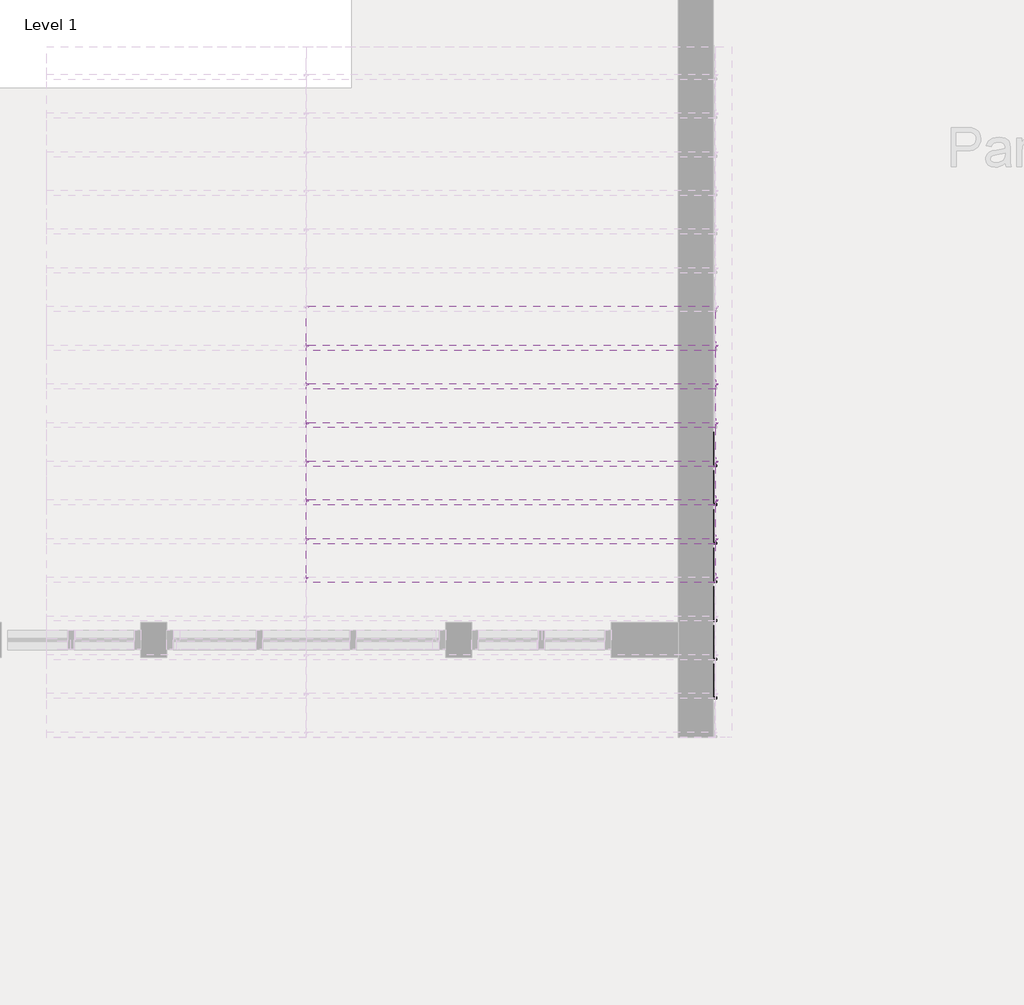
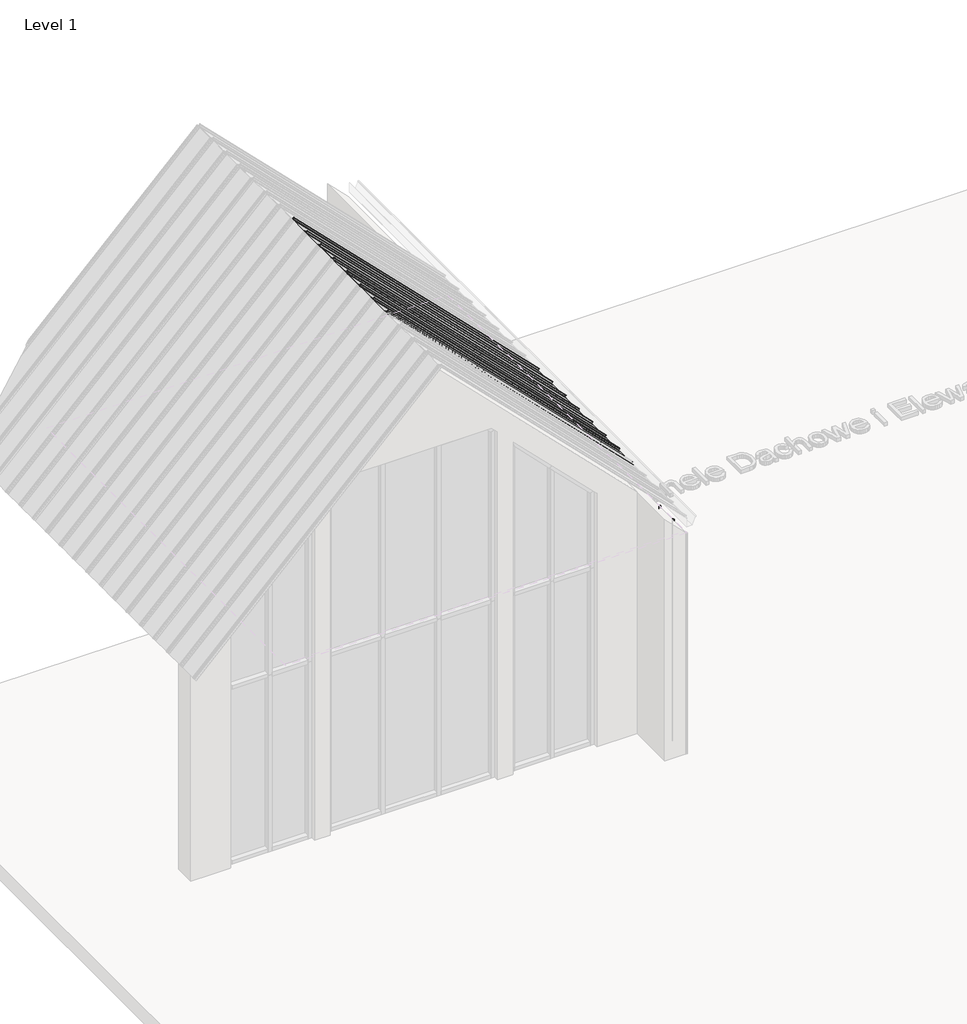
# One storey, part 6 of 24: 14 proxies.
"""IFC4 building model written with IfcOpenShell, lengths in millimetres."""

from ifc_helpers import new_model, si_unit, point, frame, frame_2d, origin, place, context, project, spatial, polyline, circle_curve, trimmed, segment, composite_curve, outline, extrude, transform, mapped, element, save
from components import aqua_slim_1cb284e8

model = new_model("IFC4")

# Units and contexts
model_context = context("Model", 3, world=origin())
ifc_project = project(units=[si_unit("LENGTHUNIT", "METRE", prefix="MILLI")], contexts=[model_context])

# Site, building, storey
site = spatial("IfcSite", under=ifc_project)
building = spatial("IfcBuilding", under=site)
storey = spatial("IfcBuildingStorey", under=building, Name="Level 1", Elevation=0.0)

# Proxies
placement = place(None, origin())
element("IfcBuildingElementProxy", 1, Name="AQUAPLAST - Panel Dachowy i Elewacyjny Aqua Slim : Aqua Slim", ObjectType="AQUAPLAST - Panel Dachowy i Elewacyjny Aqua Slim : Aqua Slim", at=placement, inside=storey, context=model_context, shape_type="SweptSolid", body=[
    extrude(outline(polyline([(0.0, 227.2000503), (4454.0, 227.2000503), (4454.0, 0.0), (0.0, 0.0), (0.0, 227.2000503)])), frame((-5286.5167864, 9929.4302375, 6945.4435021), z_axis=(0.7071067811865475, 0.0, 0.7071067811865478), x_axis=(0.7071067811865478, 0.0, -0.7071067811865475)), (0.0, 0.0, 1.0), 0.8),
    extrude(outline(composite_curve([segment(polyline([(1.6, -36.6), (0.8, -40.1), (0.0, -40.1), (0.8000601, -36.6), (0.8000601, -12.7000752)]), True, "CONTINUOUS"), segment(trimmed(circle_curve(frame_2d((1.2999699, -12.7000752)), 0.4999098), [point((0.8000601, -12.7000752))], [point((1.2999699, -12.2001654))], False, "CARTESIAN"), True, "CONTINUOUS"), segment(polyline([(1.2999699, -12.2001654), (23.7003195, -12.2001654)]), True, "CONTINUOUS"), segment(trimmed(circle_curve(frame_2d((23.7003195, -11.6998422)), 0.5003233), [point((23.7003195, -12.2001654))], [point((24.2006428, -11.6998422))], True, "CARTESIAN"), True, "CONTINUOUS"), segment(polyline([(24.2006428, -11.6998422), (24.2006428, -1.2033228)]), True, "CONTINUOUS"), segment(trimmed(circle_curve(frame_2d((23.6993591, -1.2033228)), 0.5012837), [point((24.2006428, -1.2033228))], [point((23.6993591, -0.7020391))], True, "CARTESIAN"), True, "CONTINUOUS"), segment(polyline([(23.6993591, -0.7020391), (9.7850119, -0.7020391)]), True, "CONTINUOUS"), segment(trimmed(circle_curve(frame_2d((9.7850119, -1.6460516)), 0.9440125), [point((9.7850119, -0.7020391))], [point((8.9478642, -1.2097679))], True, "CARTESIAN"), True, "CONTINUOUS"), segment(trimmed(circle_curve(frame_2d((5.4137845, -0.6808077)), 3.5734462), [point((8.9478642, -1.2097679))], [point((1.8403383, -0.6808077))], False, "CARTESIAN"), True, "CONTINUOUS"), segment(polyline([(1.8403383, -0.6808077), (2.6405793, -0.6808077)]), True, "CONTINUOUS"), segment(trimmed(circle_curve(frame_2d((5.3847864, -0.6808077)), 2.7442071), [point((2.6405793, -0.6808077))], [point((8.1289934, -0.6808077))], True, "CARTESIAN"), True, "CONTINUOUS"), segment(trimmed(circle_curve(frame_2d((8.8039224, -0.6749544)), 0.6749543), [point((8.1289934, -0.6808077))], [point((8.8039224, 0.0))], False, "CARTESIAN"), True, "CONTINUOUS"), segment(polyline([(8.8039224, 0.0), (24.5, 0.0)]), True, "CONTINUOUS"), segment(trimmed(circle_curve(frame_2d((24.5, -0.5)), 0.5), [point((24.5, 0.0))], [point((25.0, -0.5))], False, "CARTESIAN"), True, "CONTINUOUS"), segment(polyline([(25.0, -0.5), (25.0, -12.5)]), True, "CONTINUOUS"), segment(trimmed(circle_curve(frame_2d((24.5, -12.5)), 0.5), [point((25.0, -12.5))], [point((24.5, -13.0))], False, "CARTESIAN"), True, "CONTINUOUS"), segment(polyline([(24.5, -13.0), (2.1, -13.0)]), True, "CONTINUOUS"), segment(trimmed(circle_curve(frame_2d((2.1, -13.5)), 0.5), [point((2.1, -13.0))], [point((1.6, -13.5))], True, "CARTESIAN"), True, "CONTINUOUS"), segment(polyline([(1.6, -13.5), (1.6, -36.6)]), True, "CONTINUOUS")], self_intersect=False)), frame((-2137.063183, 10196.7302878, 3795.9898987), z_axis=(-0.7071067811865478, 0.0, 0.7071067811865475), x_axis=(0.7071067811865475, 0.0, 0.7071067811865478)), (0.0, 0.0, 1.0), 4454.0),
    extrude(outline(composite_curve([segment(polyline([(0.8, 0.0), (0.0, 0.0), (0.0, 30.3277327)]), True, "CONTINUOUS"), segment(trimmed(circle_curve(frame_2d((0.7400208, 30.3277327)), 0.7400208), [point((0.0, 30.3277327))], [point((0.6241817, 31.0586308))], False, "CARTESIAN"), True, "CONTINUOUS"), segment(polyline([(0.6241817, 31.0586308), (18.4803327, 33.8886302)]), True, "CONTINUOUS"), segment(trimmed(circle_curve(frame_2d((18.1818617, 35.771861)), 1.9067363), [point((18.4803327, 33.8886302))], [point((19.1352298, 37.4231431))], True, "CARTESIAN"), True, "CONTINUOUS"), segment(polyline([(19.1352298, 37.4231431), (11.8934079, 40.3349068)]), True, "CONTINUOUS"), segment(trimmed(circle_curve(frame_2d((11.2676679, 38.7786343)), 1.6773594), [point((11.8934079, 40.3349068))], [point((9.7513874, 39.4958707))], True, "CARTESIAN"), True, "CONTINUOUS"), segment(trimmed(circle_curve(frame_2d((5.5014361, 41.5061979)), 4.7014361), [point((9.7513874, 39.4958707))], [point((0.8, 41.5061979))], False, "CARTESIAN"), True, "CONTINUOUS"), segment(polyline([(0.8, 41.5061979), (0.8, 69.1999497), (0.0, 72.6999497), (0.8, 72.6999497), (1.6, 69.1999497), (1.6, 41.3470224)]), True, "CONTINUOUS"), segment(trimmed(circle_curve(frame_2d((5.4667311, 41.3470224)), 3.8667311), [point((1.6, 41.3470224))], [point((9.0024093, 39.7815866))], True, "CARTESIAN"), True, "CONTINUOUS"), segment(trimmed(circle_curve(frame_2d((11.2676679, 38.7786343)), 2.4773594), [point((9.0024093, 39.7815866))], [point((12.1941629, 41.0762236))], False, "CARTESIAN"), True, "CONTINUOUS"), segment(polyline([(12.1941629, 41.0762236), (19.5352299, 38.1159634)]), True, "CONTINUOUS"), segment(trimmed(circle_curve(frame_2d((18.1818617, 35.771861)), 2.7067363), [point((19.5352299, 38.1159634))], [point((18.7653554, 33.1287651))], False, "CARTESIAN"), True, "CONTINUOUS"), segment(polyline([(18.7653554, 33.1287651), (1.3501315, 30.0958084)]), True, "CONTINUOUS"), segment(trimmed(circle_curve(frame_2d((1.4640676, 29.441588)), 0.6640676), [point((1.3501315, 30.0958084))], [point((0.8, 29.441588))], True, "CARTESIAN"), True, "CONTINUOUS"), segment(polyline([(0.8, 29.441588), (0.8, 0.0)]), True, "CONTINUOUS")], self_intersect=False)), frame((-2137.063183, 9856.7302878, 3795.9898987), z_axis=(-0.7071067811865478, 0.0, 0.7071067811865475), x_axis=(0.7071067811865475, 0.0, 0.7071067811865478)), (0.0, 0.0, 1.0), 4454.0),
])
element("IfcBuildingElementProxy", 2, Name="AQUAPLAST - Panel Dachowy i Elewacyjny Aqua Slim : Aqua Slim", ObjectType="AQUAPLAST - Panel Dachowy i Elewacyjny Aqua Slim : Aqua Slim", at=placement, inside=storey, context=model_context, shape_type="SweptSolid", body=[
    extrude(outline(polyline([(0.0, 227.2000503), (4454.0, 227.2000503), (4454.0, 0.0), (0.0, 0.0), (0.0, 227.2000503)])), frame((-5286.5167864, 10227.4302375, 6945.4435021), z_axis=(0.7071067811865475, 0.0, 0.7071067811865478), x_axis=(0.7071067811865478, 0.0, -0.7071067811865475)), (0.0, 0.0, 1.0), 0.8),
    extrude(outline(composite_curve([segment(polyline([(1.6, -36.6), (0.8, -40.1), (0.0, -40.1), (0.8000601, -36.6), (0.8000601, -12.7000752)]), True, "CONTINUOUS"), segment(trimmed(circle_curve(frame_2d((1.2999699, -12.7000752)), 0.4999098), [point((0.8000601, -12.7000752))], [point((1.2999699, -12.2001654))], False, "CARTESIAN"), True, "CONTINUOUS"), segment(polyline([(1.2999699, -12.2001654), (23.7003195, -12.2001654)]), True, "CONTINUOUS"), segment(trimmed(circle_curve(frame_2d((23.7003195, -11.6998422)), 0.5003233), [point((23.7003195, -12.2001654))], [point((24.2006428, -11.6998422))], True, "CARTESIAN"), True, "CONTINUOUS"), segment(polyline([(24.2006428, -11.6998422), (24.2006428, -1.2033228)]), True, "CONTINUOUS"), segment(trimmed(circle_curve(frame_2d((23.6993591, -1.2033228)), 0.5012837), [point((24.2006428, -1.2033228))], [point((23.6993591, -0.7020391))], True, "CARTESIAN"), True, "CONTINUOUS"), segment(polyline([(23.6993591, -0.7020391), (9.7850119, -0.7020391)]), True, "CONTINUOUS"), segment(trimmed(circle_curve(frame_2d((9.7850119, -1.6460516)), 0.9440125), [point((9.7850119, -0.7020391))], [point((8.9478642, -1.2097679))], True, "CARTESIAN"), True, "CONTINUOUS"), segment(trimmed(circle_curve(frame_2d((5.4137845, -0.6808077)), 3.5734462), [point((8.9478642, -1.2097679))], [point((1.8403383, -0.6808077))], False, "CARTESIAN"), True, "CONTINUOUS"), segment(polyline([(1.8403383, -0.6808077), (2.6405793, -0.6808077)]), True, "CONTINUOUS"), segment(trimmed(circle_curve(frame_2d((5.3847864, -0.6808077)), 2.7442071), [point((2.6405793, -0.6808077))], [point((8.1289934, -0.6808077))], True, "CARTESIAN"), True, "CONTINUOUS"), segment(trimmed(circle_curve(frame_2d((8.8039224, -0.6749544)), 0.6749543), [point((8.1289934, -0.6808077))], [point((8.8039224, 0.0))], False, "CARTESIAN"), True, "CONTINUOUS"), segment(polyline([(8.8039224, 0.0), (24.5, 0.0)]), True, "CONTINUOUS"), segment(trimmed(circle_curve(frame_2d((24.5, -0.5)), 0.5), [point((24.5, 0.0))], [point((25.0, -0.5))], False, "CARTESIAN"), True, "CONTINUOUS"), segment(polyline([(25.0, -0.5), (25.0, -12.5)]), True, "CONTINUOUS"), segment(trimmed(circle_curve(frame_2d((24.5, -12.5)), 0.5), [point((25.0, -12.5))], [point((24.5, -13.0))], False, "CARTESIAN"), True, "CONTINUOUS"), segment(polyline([(24.5, -13.0), (2.1, -13.0)]), True, "CONTINUOUS"), segment(trimmed(circle_curve(frame_2d((2.1, -13.5)), 0.5), [point((2.1, -13.0))], [point((1.6, -13.5))], True, "CARTESIAN"), True, "CONTINUOUS"), segment(polyline([(1.6, -13.5), (1.6, -36.6)]), True, "CONTINUOUS")], self_intersect=False)), frame((-2137.063183, 10494.7302878, 3795.9898987), z_axis=(-0.7071067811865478, 0.0, 0.7071067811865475), x_axis=(0.7071067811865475, 0.0, 0.7071067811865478)), (0.0, 0.0, 1.0), 4454.0),
    extrude(outline(composite_curve([segment(polyline([(0.8, 0.0), (0.0, 0.0), (0.0, 30.3277327)]), True, "CONTINUOUS"), segment(trimmed(circle_curve(frame_2d((0.7400208, 30.3277327)), 0.7400208), [point((0.0, 30.3277327))], [point((0.6241817, 31.0586308))], False, "CARTESIAN"), True, "CONTINUOUS"), segment(polyline([(0.6241817, 31.0586308), (18.4803327, 33.8886302)]), True, "CONTINUOUS"), segment(trimmed(circle_curve(frame_2d((18.1818617, 35.771861)), 1.9067363), [point((18.4803327, 33.8886302))], [point((19.1352298, 37.4231431))], True, "CARTESIAN"), True, "CONTINUOUS"), segment(polyline([(19.1352298, 37.4231431), (11.8934079, 40.3349068)]), True, "CONTINUOUS"), segment(trimmed(circle_curve(frame_2d((11.2676679, 38.7786343)), 1.6773594), [point((11.8934079, 40.3349068))], [point((9.7513874, 39.4958707))], True, "CARTESIAN"), True, "CONTINUOUS"), segment(trimmed(circle_curve(frame_2d((5.5014361, 41.5061979)), 4.7014361), [point((9.7513874, 39.4958707))], [point((0.8, 41.5061979))], False, "CARTESIAN"), True, "CONTINUOUS"), segment(polyline([(0.8, 41.5061979), (0.8, 69.1999497), (0.0, 72.6999497), (0.8, 72.6999497), (1.6, 69.1999497), (1.6, 41.3470224)]), True, "CONTINUOUS"), segment(trimmed(circle_curve(frame_2d((5.4667311, 41.3470224)), 3.8667311), [point((1.6, 41.3470224))], [point((9.0024093, 39.7815866))], True, "CARTESIAN"), True, "CONTINUOUS"), segment(trimmed(circle_curve(frame_2d((11.2676679, 38.7786343)), 2.4773594), [point((9.0024093, 39.7815866))], [point((12.1941629, 41.0762236))], False, "CARTESIAN"), True, "CONTINUOUS"), segment(polyline([(12.1941629, 41.0762236), (19.5352299, 38.1159634)]), True, "CONTINUOUS"), segment(trimmed(circle_curve(frame_2d((18.1818617, 35.771861)), 2.7067363), [point((19.5352299, 38.1159634))], [point((18.7653554, 33.1287651))], False, "CARTESIAN"), True, "CONTINUOUS"), segment(polyline([(18.7653554, 33.1287651), (1.3501315, 30.0958084)]), True, "CONTINUOUS"), segment(trimmed(circle_curve(frame_2d((1.4640676, 29.441588)), 0.6640676), [point((1.3501315, 30.0958084))], [point((0.8, 29.441588))], True, "CARTESIAN"), True, "CONTINUOUS"), segment(polyline([(0.8, 29.441588), (0.8, 0.0)]), True, "CONTINUOUS")], self_intersect=False)), frame((-2137.063183, 10154.7302878, 3795.9898987), z_axis=(-0.7071067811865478, 0.0, 0.7071067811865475), x_axis=(0.7071067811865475, 0.0, 0.7071067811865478)), (0.0, 0.0, 1.0), 4454.0),
])
element("IfcBuildingElementProxy", 3, Name="AQUAPLAST - Panel Dachowy i Elewacyjny Aqua Slim : Aqua Slim", ObjectType="AQUAPLAST - Panel Dachowy i Elewacyjny Aqua Slim : Aqua Slim", at=placement, inside=storey, context=model_context, shape_type="SweptSolid", body=[
    extrude(outline(polyline([(0.0, 227.2000503), (4454.0, 227.2000503), (4454.0, 0.0), (0.0, 0.0), (0.0, 227.2000503)])), frame((-5286.5167864, 10525.4302375, 6945.4435021), z_axis=(0.7071067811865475, 0.0, 0.7071067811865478), x_axis=(0.7071067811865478, 0.0, -0.7071067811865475)), (0.0, 0.0, 1.0), 0.8),
    extrude(outline(composite_curve([segment(polyline([(1.6, -36.6), (0.8, -40.1), (0.0, -40.1), (0.8000601, -36.6), (0.8000601, -12.7000752)]), True, "CONTINUOUS"), segment(trimmed(circle_curve(frame_2d((1.2999699, -12.7000752)), 0.4999098), [point((0.8000601, -12.7000752))], [point((1.2999699, -12.2001654))], False, "CARTESIAN"), True, "CONTINUOUS"), segment(polyline([(1.2999699, -12.2001654), (23.7003195, -12.2001654)]), True, "CONTINUOUS"), segment(trimmed(circle_curve(frame_2d((23.7003195, -11.6998422)), 0.5003233), [point((23.7003195, -12.2001654))], [point((24.2006428, -11.6998422))], True, "CARTESIAN"), True, "CONTINUOUS"), segment(polyline([(24.2006428, -11.6998422), (24.2006428, -1.2033228)]), True, "CONTINUOUS"), segment(trimmed(circle_curve(frame_2d((23.6993591, -1.2033228)), 0.5012837), [point((24.2006428, -1.2033228))], [point((23.6993591, -0.7020391))], True, "CARTESIAN"), True, "CONTINUOUS"), segment(polyline([(23.6993591, -0.7020391), (9.7850119, -0.7020391)]), True, "CONTINUOUS"), segment(trimmed(circle_curve(frame_2d((9.7850119, -1.6460516)), 0.9440125), [point((9.7850119, -0.7020391))], [point((8.9478642, -1.2097679))], True, "CARTESIAN"), True, "CONTINUOUS"), segment(trimmed(circle_curve(frame_2d((5.4137845, -0.6808077)), 3.5734462), [point((8.9478642, -1.2097679))], [point((1.8403383, -0.6808077))], False, "CARTESIAN"), True, "CONTINUOUS"), segment(polyline([(1.8403383, -0.6808077), (2.6405793, -0.6808077)]), True, "CONTINUOUS"), segment(trimmed(circle_curve(frame_2d((5.3847864, -0.6808077)), 2.7442071), [point((2.6405793, -0.6808077))], [point((8.1289934, -0.6808077))], True, "CARTESIAN"), True, "CONTINUOUS"), segment(trimmed(circle_curve(frame_2d((8.8039224, -0.6749544)), 0.6749543), [point((8.1289934, -0.6808077))], [point((8.8039224, 0.0))], False, "CARTESIAN"), True, "CONTINUOUS"), segment(polyline([(8.8039224, 0.0), (24.5, 0.0)]), True, "CONTINUOUS"), segment(trimmed(circle_curve(frame_2d((24.5, -0.5)), 0.5), [point((24.5, 0.0))], [point((25.0, -0.5))], False, "CARTESIAN"), True, "CONTINUOUS"), segment(polyline([(25.0, -0.5), (25.0, -12.5)]), True, "CONTINUOUS"), segment(trimmed(circle_curve(frame_2d((24.5, -12.5)), 0.5), [point((25.0, -12.5))], [point((24.5, -13.0))], False, "CARTESIAN"), True, "CONTINUOUS"), segment(polyline([(24.5, -13.0), (2.1, -13.0)]), True, "CONTINUOUS"), segment(trimmed(circle_curve(frame_2d((2.1, -13.5)), 0.5), [point((2.1, -13.0))], [point((1.6, -13.5))], True, "CARTESIAN"), True, "CONTINUOUS"), segment(polyline([(1.6, -13.5), (1.6, -36.6)]), True, "CONTINUOUS")], self_intersect=False)), frame((-2137.063183, 10792.7302878, 3795.9898987), z_axis=(-0.7071067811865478, 0.0, 0.7071067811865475), x_axis=(0.7071067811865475, 0.0, 0.7071067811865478)), (0.0, 0.0, 1.0), 4454.0),
    extrude(outline(composite_curve([segment(polyline([(0.8, 0.0), (0.0, 0.0), (0.0, 30.3277327)]), True, "CONTINUOUS"), segment(trimmed(circle_curve(frame_2d((0.7400208, 30.3277327)), 0.7400208), [point((0.0, 30.3277327))], [point((0.6241817, 31.0586308))], False, "CARTESIAN"), True, "CONTINUOUS"), segment(polyline([(0.6241817, 31.0586308), (18.4803327, 33.8886302)]), True, "CONTINUOUS"), segment(trimmed(circle_curve(frame_2d((18.1818617, 35.771861)), 1.9067363), [point((18.4803327, 33.8886302))], [point((19.1352298, 37.4231431))], True, "CARTESIAN"), True, "CONTINUOUS"), segment(polyline([(19.1352298, 37.4231431), (11.8934079, 40.3349068)]), True, "CONTINUOUS"), segment(trimmed(circle_curve(frame_2d((11.2676679, 38.7786343)), 1.6773594), [point((11.8934079, 40.3349068))], [point((9.7513874, 39.4958707))], True, "CARTESIAN"), True, "CONTINUOUS"), segment(trimmed(circle_curve(frame_2d((5.5014361, 41.5061979)), 4.7014361), [point((9.7513874, 39.4958707))], [point((0.8, 41.5061979))], False, "CARTESIAN"), True, "CONTINUOUS"), segment(polyline([(0.8, 41.5061979), (0.8, 69.1999497), (0.0, 72.6999497), (0.8, 72.6999497), (1.6, 69.1999497), (1.6, 41.3470224)]), True, "CONTINUOUS"), segment(trimmed(circle_curve(frame_2d((5.4667311, 41.3470224)), 3.8667311), [point((1.6, 41.3470224))], [point((9.0024093, 39.7815866))], True, "CARTESIAN"), True, "CONTINUOUS"), segment(trimmed(circle_curve(frame_2d((11.2676679, 38.7786343)), 2.4773594), [point((9.0024093, 39.7815866))], [point((12.1941629, 41.0762236))], False, "CARTESIAN"), True, "CONTINUOUS"), segment(polyline([(12.1941629, 41.0762236), (19.5352299, 38.1159634)]), True, "CONTINUOUS"), segment(trimmed(circle_curve(frame_2d((18.1818617, 35.771861)), 2.7067363), [point((19.5352299, 38.1159634))], [point((18.7653554, 33.1287651))], False, "CARTESIAN"), True, "CONTINUOUS"), segment(polyline([(18.7653554, 33.1287651), (1.3501315, 30.0958084)]), True, "CONTINUOUS"), segment(trimmed(circle_curve(frame_2d((1.4640676, 29.441588)), 0.6640676), [point((1.3501315, 30.0958084))], [point((0.8, 29.441588))], True, "CARTESIAN"), True, "CONTINUOUS"), segment(polyline([(0.8, 29.441588), (0.8, 0.0)]), True, "CONTINUOUS")], self_intersect=False)), frame((-2137.063183, 10452.7302878, 3795.9898987), z_axis=(-0.7071067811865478, 0.0, 0.7071067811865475), x_axis=(0.7071067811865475, 0.0, 0.7071067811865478)), (0.0, 0.0, 1.0), 4454.0),
])
element("IfcBuildingElementProxy", 4, Name="AQUAPLAST - Panel Dachowy i Elewacyjny Aqua Slim : Aqua Slim", ObjectType="AQUAPLAST - Panel Dachowy i Elewacyjny Aqua Slim : Aqua Slim", at=placement, inside=storey, context=model_context, shape_type="SweptSolid", body=[
    extrude(outline(polyline([(0.0, 227.2000503), (4454.0, 227.2000503), (4454.0, 0.0), (0.0, 0.0), (0.0, 227.2000503)])), frame((-5286.5167864, 10823.4302375, 6945.4435021), z_axis=(0.7071067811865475, 0.0, 0.7071067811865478), x_axis=(0.7071067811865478, 0.0, -0.7071067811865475)), (0.0, 0.0, 1.0), 0.8),
    extrude(outline(composite_curve([segment(polyline([(1.6, -36.6), (0.8, -40.1), (0.0, -40.1), (0.8000601, -36.6), (0.8000601, -12.7000752)]), True, "CONTINUOUS"), segment(trimmed(circle_curve(frame_2d((1.2999699, -12.7000752)), 0.4999098), [point((0.8000601, -12.7000752))], [point((1.2999699, -12.2001654))], False, "CARTESIAN"), True, "CONTINUOUS"), segment(polyline([(1.2999699, -12.2001654), (23.7003195, -12.2001654)]), True, "CONTINUOUS"), segment(trimmed(circle_curve(frame_2d((23.7003195, -11.6998422)), 0.5003233), [point((23.7003195, -12.2001654))], [point((24.2006428, -11.6998422))], True, "CARTESIAN"), True, "CONTINUOUS"), segment(polyline([(24.2006428, -11.6998422), (24.2006428, -1.2033228)]), True, "CONTINUOUS"), segment(trimmed(circle_curve(frame_2d((23.6993591, -1.2033228)), 0.5012837), [point((24.2006428, -1.2033228))], [point((23.6993591, -0.7020391))], True, "CARTESIAN"), True, "CONTINUOUS"), segment(polyline([(23.6993591, -0.7020391), (9.7850119, -0.7020391)]), True, "CONTINUOUS"), segment(trimmed(circle_curve(frame_2d((9.7850119, -1.6460516)), 0.9440125), [point((9.7850119, -0.7020391))], [point((8.9478642, -1.2097679))], True, "CARTESIAN"), True, "CONTINUOUS"), segment(trimmed(circle_curve(frame_2d((5.4137845, -0.6808077)), 3.5734462), [point((8.9478642, -1.2097679))], [point((1.8403383, -0.6808077))], False, "CARTESIAN"), True, "CONTINUOUS"), segment(polyline([(1.8403383, -0.6808077), (2.6405793, -0.6808077)]), True, "CONTINUOUS"), segment(trimmed(circle_curve(frame_2d((5.3847864, -0.6808077)), 2.7442071), [point((2.6405793, -0.6808077))], [point((8.1289934, -0.6808077))], True, "CARTESIAN"), True, "CONTINUOUS"), segment(trimmed(circle_curve(frame_2d((8.8039224, -0.6749544)), 0.6749543), [point((8.1289934, -0.6808077))], [point((8.8039224, 0.0))], False, "CARTESIAN"), True, "CONTINUOUS"), segment(polyline([(8.8039224, 0.0), (24.5, 0.0)]), True, "CONTINUOUS"), segment(trimmed(circle_curve(frame_2d((24.5, -0.5)), 0.5), [point((24.5, 0.0))], [point((25.0, -0.5))], False, "CARTESIAN"), True, "CONTINUOUS"), segment(polyline([(25.0, -0.5), (25.0, -12.5)]), True, "CONTINUOUS"), segment(trimmed(circle_curve(frame_2d((24.5, -12.5)), 0.5), [point((25.0, -12.5))], [point((24.5, -13.0))], False, "CARTESIAN"), True, "CONTINUOUS"), segment(polyline([(24.5, -13.0), (2.1, -13.0)]), True, "CONTINUOUS"), segment(trimmed(circle_curve(frame_2d((2.1, -13.5)), 0.5), [point((2.1, -13.0))], [point((1.6, -13.5))], True, "CARTESIAN"), True, "CONTINUOUS"), segment(polyline([(1.6, -13.5), (1.6, -36.6)]), True, "CONTINUOUS")], self_intersect=False)), frame((-2137.063183, 11090.7302878, 3795.9898987), z_axis=(-0.7071067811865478, 0.0, 0.7071067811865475), x_axis=(0.7071067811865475, 0.0, 0.7071067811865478)), (0.0, 0.0, 1.0), 4454.0),
    extrude(outline(composite_curve([segment(polyline([(0.8, 0.0), (0.0, 0.0), (0.0, 30.3277327)]), True, "CONTINUOUS"), segment(trimmed(circle_curve(frame_2d((0.7400208, 30.3277327)), 0.7400208), [point((0.0, 30.3277327))], [point((0.6241817, 31.0586308))], False, "CARTESIAN"), True, "CONTINUOUS"), segment(polyline([(0.6241817, 31.0586308), (18.4803327, 33.8886302)]), True, "CONTINUOUS"), segment(trimmed(circle_curve(frame_2d((18.1818617, 35.771861)), 1.9067363), [point((18.4803327, 33.8886302))], [point((19.1352298, 37.4231431))], True, "CARTESIAN"), True, "CONTINUOUS"), segment(polyline([(19.1352298, 37.4231431), (11.8934079, 40.3349068)]), True, "CONTINUOUS"), segment(trimmed(circle_curve(frame_2d((11.2676679, 38.7786343)), 1.6773594), [point((11.8934079, 40.3349068))], [point((9.7513874, 39.4958707))], True, "CARTESIAN"), True, "CONTINUOUS"), segment(trimmed(circle_curve(frame_2d((5.5014361, 41.5061979)), 4.7014361), [point((9.7513874, 39.4958707))], [point((0.8, 41.5061979))], False, "CARTESIAN"), True, "CONTINUOUS"), segment(polyline([(0.8, 41.5061979), (0.8, 69.1999497), (0.0, 72.6999497), (0.8, 72.6999497), (1.6, 69.1999497), (1.6, 41.3470224)]), True, "CONTINUOUS"), segment(trimmed(circle_curve(frame_2d((5.4667311, 41.3470224)), 3.8667311), [point((1.6, 41.3470224))], [point((9.0024093, 39.7815866))], True, "CARTESIAN"), True, "CONTINUOUS"), segment(trimmed(circle_curve(frame_2d((11.2676679, 38.7786343)), 2.4773594), [point((9.0024093, 39.7815866))], [point((12.1941629, 41.0762236))], False, "CARTESIAN"), True, "CONTINUOUS"), segment(polyline([(12.1941629, 41.0762236), (19.5352299, 38.1159634)]), True, "CONTINUOUS"), segment(trimmed(circle_curve(frame_2d((18.1818617, 35.771861)), 2.7067363), [point((19.5352299, 38.1159634))], [point((18.7653554, 33.1287651))], False, "CARTESIAN"), True, "CONTINUOUS"), segment(polyline([(18.7653554, 33.1287651), (1.3501315, 30.0958084)]), True, "CONTINUOUS"), segment(trimmed(circle_curve(frame_2d((1.4640676, 29.441588)), 0.6640676), [point((1.3501315, 30.0958084))], [point((0.8, 29.441588))], True, "CARTESIAN"), True, "CONTINUOUS"), segment(polyline([(0.8, 29.441588), (0.8, 0.0)]), True, "CONTINUOUS")], self_intersect=False)), frame((-2137.063183, 10750.7302878, 3795.9898987), z_axis=(-0.7071067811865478, 0.0, 0.7071067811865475), x_axis=(0.7071067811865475, 0.0, 0.7071067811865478)), (0.0, 0.0, 1.0), 4454.0),
])
element("IfcBuildingElementProxy", 5, Name="AQUAPLAST - Panel Dachowy i Elewacyjny Aqua Slim : Aqua Slim", ObjectType="AQUAPLAST - Panel Dachowy i Elewacyjny Aqua Slim : Aqua Slim", at=placement, inside=storey, context=model_context, shape_type="SweptSolid", body=[
    extrude(outline(polyline([(0.0, 227.2000503), (4454.0, 227.2000503), (4454.0, 0.0), (0.0, 0.0), (0.0, 227.2000503)])), frame((-5286.5167864, 11121.4302375, 6945.4435021), z_axis=(0.7071067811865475, 0.0, 0.7071067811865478), x_axis=(0.7071067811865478, 0.0, -0.7071067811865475)), (0.0, 0.0, 1.0), 0.8),
    extrude(outline(composite_curve([segment(polyline([(1.6, -36.6), (0.8, -40.1), (0.0, -40.1), (0.8000601, -36.6), (0.8000601, -12.7000752)]), True, "CONTINUOUS"), segment(trimmed(circle_curve(frame_2d((1.2999699, -12.7000752)), 0.4999098), [point((0.8000601, -12.7000752))], [point((1.2999699, -12.2001654))], False, "CARTESIAN"), True, "CONTINUOUS"), segment(polyline([(1.2999699, -12.2001654), (23.7003195, -12.2001654)]), True, "CONTINUOUS"), segment(trimmed(circle_curve(frame_2d((23.7003195, -11.6998422)), 0.5003233), [point((23.7003195, -12.2001654))], [point((24.2006428, -11.6998422))], True, "CARTESIAN"), True, "CONTINUOUS"), segment(polyline([(24.2006428, -11.6998422), (24.2006428, -1.2033228)]), True, "CONTINUOUS"), segment(trimmed(circle_curve(frame_2d((23.6993591, -1.2033228)), 0.5012837), [point((24.2006428, -1.2033228))], [point((23.6993591, -0.7020391))], True, "CARTESIAN"), True, "CONTINUOUS"), segment(polyline([(23.6993591, -0.7020391), (9.7850119, -0.7020391)]), True, "CONTINUOUS"), segment(trimmed(circle_curve(frame_2d((9.7850119, -1.6460516)), 0.9440125), [point((9.7850119, -0.7020391))], [point((8.9478642, -1.2097679))], True, "CARTESIAN"), True, "CONTINUOUS"), segment(trimmed(circle_curve(frame_2d((5.4137845, -0.6808077)), 3.5734462), [point((8.9478642, -1.2097679))], [point((1.8403383, -0.6808077))], False, "CARTESIAN"), True, "CONTINUOUS"), segment(polyline([(1.8403383, -0.6808077), (2.6405793, -0.6808077)]), True, "CONTINUOUS"), segment(trimmed(circle_curve(frame_2d((5.3847864, -0.6808077)), 2.7442071), [point((2.6405793, -0.6808077))], [point((8.1289934, -0.6808077))], True, "CARTESIAN"), True, "CONTINUOUS"), segment(trimmed(circle_curve(frame_2d((8.8039224, -0.6749544)), 0.6749543), [point((8.1289934, -0.6808077))], [point((8.8039224, 0.0))], False, "CARTESIAN"), True, "CONTINUOUS"), segment(polyline([(8.8039224, 0.0), (24.5, 0.0)]), True, "CONTINUOUS"), segment(trimmed(circle_curve(frame_2d((24.5, -0.5)), 0.5), [point((24.5, 0.0))], [point((25.0, -0.5))], False, "CARTESIAN"), True, "CONTINUOUS"), segment(polyline([(25.0, -0.5), (25.0, -12.5)]), True, "CONTINUOUS"), segment(trimmed(circle_curve(frame_2d((24.5, -12.5)), 0.5), [point((25.0, -12.5))], [point((24.5, -13.0))], False, "CARTESIAN"), True, "CONTINUOUS"), segment(polyline([(24.5, -13.0), (2.1, -13.0)]), True, "CONTINUOUS"), segment(trimmed(circle_curve(frame_2d((2.1, -13.5)), 0.5), [point((2.1, -13.0))], [point((1.6, -13.5))], True, "CARTESIAN"), True, "CONTINUOUS"), segment(polyline([(1.6, -13.5), (1.6, -36.6)]), True, "CONTINUOUS")], self_intersect=False)), frame((-2137.063183, 11388.7302878, 3795.9898987), z_axis=(-0.7071067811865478, 0.0, 0.7071067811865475), x_axis=(0.7071067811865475, 0.0, 0.7071067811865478)), (0.0, 0.0, 1.0), 4454.0),
    extrude(outline(composite_curve([segment(polyline([(0.8, 0.0), (0.0, 0.0), (0.0, 30.3277327)]), True, "CONTINUOUS"), segment(trimmed(circle_curve(frame_2d((0.7400208, 30.3277327)), 0.7400208), [point((0.0, 30.3277327))], [point((0.6241817, 31.0586308))], False, "CARTESIAN"), True, "CONTINUOUS"), segment(polyline([(0.6241817, 31.0586308), (18.4803327, 33.8886302)]), True, "CONTINUOUS"), segment(trimmed(circle_curve(frame_2d((18.1818617, 35.771861)), 1.9067363), [point((18.4803327, 33.8886302))], [point((19.1352298, 37.4231431))], True, "CARTESIAN"), True, "CONTINUOUS"), segment(polyline([(19.1352298, 37.4231431), (11.8934079, 40.3349068)]), True, "CONTINUOUS"), segment(trimmed(circle_curve(frame_2d((11.2676679, 38.7786343)), 1.6773594), [point((11.8934079, 40.3349068))], [point((9.7513874, 39.4958707))], True, "CARTESIAN"), True, "CONTINUOUS"), segment(trimmed(circle_curve(frame_2d((5.5014361, 41.5061979)), 4.7014361), [point((9.7513874, 39.4958707))], [point((0.8, 41.5061979))], False, "CARTESIAN"), True, "CONTINUOUS"), segment(polyline([(0.8, 41.5061979), (0.8, 69.1999497), (0.0, 72.6999497), (0.8, 72.6999497), (1.6, 69.1999497), (1.6, 41.3470224)]), True, "CONTINUOUS"), segment(trimmed(circle_curve(frame_2d((5.4667311, 41.3470224)), 3.8667311), [point((1.6, 41.3470224))], [point((9.0024093, 39.7815866))], True, "CARTESIAN"), True, "CONTINUOUS"), segment(trimmed(circle_curve(frame_2d((11.2676679, 38.7786343)), 2.4773594), [point((9.0024093, 39.7815866))], [point((12.1941629, 41.0762236))], False, "CARTESIAN"), True, "CONTINUOUS"), segment(polyline([(12.1941629, 41.0762236), (19.5352299, 38.1159634)]), True, "CONTINUOUS"), segment(trimmed(circle_curve(frame_2d((18.1818617, 35.771861)), 2.7067363), [point((19.5352299, 38.1159634))], [point((18.7653554, 33.1287651))], False, "CARTESIAN"), True, "CONTINUOUS"), segment(polyline([(18.7653554, 33.1287651), (1.3501315, 30.0958084)]), True, "CONTINUOUS"), segment(trimmed(circle_curve(frame_2d((1.4640676, 29.441588)), 0.6640676), [point((1.3501315, 30.0958084))], [point((0.8, 29.441588))], True, "CARTESIAN"), True, "CONTINUOUS"), segment(polyline([(0.8, 29.441588), (0.8, 0.0)]), True, "CONTINUOUS")], self_intersect=False)), frame((-2137.063183, 11048.7302878, 3795.9898987), z_axis=(-0.7071067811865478, 0.0, 0.7071067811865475), x_axis=(0.7071067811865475, 0.0, 0.7071067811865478)), (0.0, 0.0, 1.0), 4454.0),
])
element("IfcBuildingElementProxy", 6, Name="AQUAPLAST - Panel Dachowy i Elewacyjny Aqua Slim : Aqua Slim", ObjectType="AQUAPLAST - Panel Dachowy i Elewacyjny Aqua Slim : Aqua Slim", at=placement, inside=storey, context=model_context, shape_type="SweptSolid", body=[
    extrude(outline(polyline([(0.0, 227.2000503), (4454.0, 227.2000503), (4454.0, 0.0), (0.0, 0.0), (0.0, 227.2000503)])), frame((-5286.5167864, 11419.4302375, 6945.4435021), z_axis=(0.7071067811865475, 0.0, 0.7071067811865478), x_axis=(0.7071067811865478, 0.0, -0.7071067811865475)), (0.0, 0.0, 1.0), 0.8),
    extrude(outline(composite_curve([segment(polyline([(1.6, -36.6), (0.8, -40.1), (0.0, -40.1), (0.8000601, -36.6), (0.8000601, -12.7000752)]), True, "CONTINUOUS"), segment(trimmed(circle_curve(frame_2d((1.2999699, -12.7000752)), 0.4999098), [point((0.8000601, -12.7000752))], [point((1.2999699, -12.2001654))], False, "CARTESIAN"), True, "CONTINUOUS"), segment(polyline([(1.2999699, -12.2001654), (23.7003195, -12.2001654)]), True, "CONTINUOUS"), segment(trimmed(circle_curve(frame_2d((23.7003195, -11.6998422)), 0.5003233), [point((23.7003195, -12.2001654))], [point((24.2006428, -11.6998422))], True, "CARTESIAN"), True, "CONTINUOUS"), segment(polyline([(24.2006428, -11.6998422), (24.2006428, -1.2033228)]), True, "CONTINUOUS"), segment(trimmed(circle_curve(frame_2d((23.6993591, -1.2033228)), 0.5012837), [point((24.2006428, -1.2033228))], [point((23.6993591, -0.7020391))], True, "CARTESIAN"), True, "CONTINUOUS"), segment(polyline([(23.6993591, -0.7020391), (9.7850119, -0.7020391)]), True, "CONTINUOUS"), segment(trimmed(circle_curve(frame_2d((9.7850119, -1.6460516)), 0.9440125), [point((9.7850119, -0.7020391))], [point((8.9478642, -1.2097679))], True, "CARTESIAN"), True, "CONTINUOUS"), segment(trimmed(circle_curve(frame_2d((5.4137845, -0.6808077)), 3.5734462), [point((8.9478642, -1.2097679))], [point((1.8403383, -0.6808077))], False, "CARTESIAN"), True, "CONTINUOUS"), segment(polyline([(1.8403383, -0.6808077), (2.6405793, -0.6808077)]), True, "CONTINUOUS"), segment(trimmed(circle_curve(frame_2d((5.3847864, -0.6808077)), 2.7442071), [point((2.6405793, -0.6808077))], [point((8.1289934, -0.6808077))], True, "CARTESIAN"), True, "CONTINUOUS"), segment(trimmed(circle_curve(frame_2d((8.8039224, -0.6749544)), 0.6749543), [point((8.1289934, -0.6808077))], [point((8.8039224, 0.0))], False, "CARTESIAN"), True, "CONTINUOUS"), segment(polyline([(8.8039224, 0.0), (24.5, 0.0)]), True, "CONTINUOUS"), segment(trimmed(circle_curve(frame_2d((24.5, -0.5)), 0.5), [point((24.5, 0.0))], [point((25.0, -0.5))], False, "CARTESIAN"), True, "CONTINUOUS"), segment(polyline([(25.0, -0.5), (25.0, -12.5)]), True, "CONTINUOUS"), segment(trimmed(circle_curve(frame_2d((24.5, -12.5)), 0.5), [point((25.0, -12.5))], [point((24.5, -13.0))], False, "CARTESIAN"), True, "CONTINUOUS"), segment(polyline([(24.5, -13.0), (2.1, -13.0)]), True, "CONTINUOUS"), segment(trimmed(circle_curve(frame_2d((2.1, -13.5)), 0.5), [point((2.1, -13.0))], [point((1.6, -13.5))], True, "CARTESIAN"), True, "CONTINUOUS"), segment(polyline([(1.6, -13.5), (1.6, -36.6)]), True, "CONTINUOUS")], self_intersect=False)), frame((-2137.063183, 11686.7302878, 3795.9898987), z_axis=(-0.7071067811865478, 0.0, 0.7071067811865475), x_axis=(0.7071067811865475, 0.0, 0.7071067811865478)), (0.0, 0.0, 1.0), 4454.0),
    extrude(outline(composite_curve([segment(polyline([(0.8, 0.0), (0.0, 0.0), (0.0, 30.3277327)]), True, "CONTINUOUS"), segment(trimmed(circle_curve(frame_2d((0.7400208, 30.3277327)), 0.7400208), [point((0.0, 30.3277327))], [point((0.6241817, 31.0586308))], False, "CARTESIAN"), True, "CONTINUOUS"), segment(polyline([(0.6241817, 31.0586308), (18.4803327, 33.8886302)]), True, "CONTINUOUS"), segment(trimmed(circle_curve(frame_2d((18.1818617, 35.771861)), 1.9067363), [point((18.4803327, 33.8886302))], [point((19.1352298, 37.4231431))], True, "CARTESIAN"), True, "CONTINUOUS"), segment(polyline([(19.1352298, 37.4231431), (11.8934079, 40.3349068)]), True, "CONTINUOUS"), segment(trimmed(circle_curve(frame_2d((11.2676679, 38.7786343)), 1.6773594), [point((11.8934079, 40.3349068))], [point((9.7513874, 39.4958707))], True, "CARTESIAN"), True, "CONTINUOUS"), segment(trimmed(circle_curve(frame_2d((5.5014361, 41.5061979)), 4.7014361), [point((9.7513874, 39.4958707))], [point((0.8, 41.5061979))], False, "CARTESIAN"), True, "CONTINUOUS"), segment(polyline([(0.8, 41.5061979), (0.8, 69.1999497), (0.0, 72.6999497), (0.8, 72.6999497), (1.6, 69.1999497), (1.6, 41.3470224)]), True, "CONTINUOUS"), segment(trimmed(circle_curve(frame_2d((5.4667311, 41.3470224)), 3.8667311), [point((1.6, 41.3470224))], [point((9.0024093, 39.7815866))], True, "CARTESIAN"), True, "CONTINUOUS"), segment(trimmed(circle_curve(frame_2d((11.2676679, 38.7786343)), 2.4773594), [point((9.0024093, 39.7815866))], [point((12.1941629, 41.0762236))], False, "CARTESIAN"), True, "CONTINUOUS"), segment(polyline([(12.1941629, 41.0762236), (19.5352299, 38.1159634)]), True, "CONTINUOUS"), segment(trimmed(circle_curve(frame_2d((18.1818617, 35.771861)), 2.7067363), [point((19.5352299, 38.1159634))], [point((18.7653554, 33.1287651))], False, "CARTESIAN"), True, "CONTINUOUS"), segment(polyline([(18.7653554, 33.1287651), (1.3501315, 30.0958084)]), True, "CONTINUOUS"), segment(trimmed(circle_curve(frame_2d((1.4640676, 29.441588)), 0.6640676), [point((1.3501315, 30.0958084))], [point((0.8, 29.441588))], True, "CARTESIAN"), True, "CONTINUOUS"), segment(polyline([(0.8, 29.441588), (0.8, 0.0)]), True, "CONTINUOUS")], self_intersect=False)), frame((-2137.063183, 11346.7302878, 3795.9898987), z_axis=(-0.7071067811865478, 0.0, 0.7071067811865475), x_axis=(0.7071067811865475, 0.0, 0.7071067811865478)), (0.0, 0.0, 1.0), 4454.0),
])
element("IfcBuildingElementProxy", 7, Name="AQUAPLAST - Panel Dachowy i Elewacyjny Aqua Slim : Aqua Slim", ObjectType="AQUAPLAST - Panel Dachowy i Elewacyjny Aqua Slim : Aqua Slim", at=placement, inside=storey, context=model_context, shape_type="SweptSolid", body=[
    extrude(outline(polyline([(0.0, 227.2000503), (4454.0, 227.2000503), (4454.0, 0.0), (0.0, 0.0), (0.0, 227.2000503)])), frame((-5286.5167864, 11717.4302375, 6945.4435021), z_axis=(0.7071067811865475, 0.0, 0.7071067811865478), x_axis=(0.7071067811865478, 0.0, -0.7071067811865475)), (0.0, 0.0, 1.0), 0.8),
    extrude(outline(composite_curve([segment(polyline([(1.6, -36.6), (0.8, -40.1), (0.0, -40.1), (0.8000601, -36.6), (0.8000601, -12.7000752)]), True, "CONTINUOUS"), segment(trimmed(circle_curve(frame_2d((1.2999699, -12.7000752)), 0.4999098), [point((0.8000601, -12.7000752))], [point((1.2999699, -12.2001654))], False, "CARTESIAN"), True, "CONTINUOUS"), segment(polyline([(1.2999699, -12.2001654), (23.7003195, -12.2001654)]), True, "CONTINUOUS"), segment(trimmed(circle_curve(frame_2d((23.7003195, -11.6998422)), 0.5003233), [point((23.7003195, -12.2001654))], [point((24.2006428, -11.6998422))], True, "CARTESIAN"), True, "CONTINUOUS"), segment(polyline([(24.2006428, -11.6998422), (24.2006428, -1.2033228)]), True, "CONTINUOUS"), segment(trimmed(circle_curve(frame_2d((23.6993591, -1.2033228)), 0.5012837), [point((24.2006428, -1.2033228))], [point((23.6993591, -0.7020391))], True, "CARTESIAN"), True, "CONTINUOUS"), segment(polyline([(23.6993591, -0.7020391), (9.7850119, -0.7020391)]), True, "CONTINUOUS"), segment(trimmed(circle_curve(frame_2d((9.7850119, -1.6460516)), 0.9440125), [point((9.7850119, -0.7020391))], [point((8.9478642, -1.2097679))], True, "CARTESIAN"), True, "CONTINUOUS"), segment(trimmed(circle_curve(frame_2d((5.4137845, -0.6808077)), 3.5734462), [point((8.9478642, -1.2097679))], [point((1.8403383, -0.6808077))], False, "CARTESIAN"), True, "CONTINUOUS"), segment(polyline([(1.8403383, -0.6808077), (2.6405793, -0.6808077)]), True, "CONTINUOUS"), segment(trimmed(circle_curve(frame_2d((5.3847864, -0.6808077)), 2.7442071), [point((2.6405793, -0.6808077))], [point((8.1289934, -0.6808077))], True, "CARTESIAN"), True, "CONTINUOUS"), segment(trimmed(circle_curve(frame_2d((8.8039224, -0.6749544)), 0.6749543), [point((8.1289934, -0.6808077))], [point((8.8039224, 0.0))], False, "CARTESIAN"), True, "CONTINUOUS"), segment(polyline([(8.8039224, 0.0), (24.5, 0.0)]), True, "CONTINUOUS"), segment(trimmed(circle_curve(frame_2d((24.5, -0.5)), 0.5), [point((24.5, 0.0))], [point((25.0, -0.5))], False, "CARTESIAN"), True, "CONTINUOUS"), segment(polyline([(25.0, -0.5), (25.0, -12.5)]), True, "CONTINUOUS"), segment(trimmed(circle_curve(frame_2d((24.5, -12.5)), 0.5), [point((25.0, -12.5))], [point((24.5, -13.0))], False, "CARTESIAN"), True, "CONTINUOUS"), segment(polyline([(24.5, -13.0), (2.1, -13.0)]), True, "CONTINUOUS"), segment(trimmed(circle_curve(frame_2d((2.1, -13.5)), 0.5), [point((2.1, -13.0))], [point((1.6, -13.5))], True, "CARTESIAN"), True, "CONTINUOUS"), segment(polyline([(1.6, -13.5), (1.6, -36.6)]), True, "CONTINUOUS")], self_intersect=False)), frame((-2137.063183, 11984.7302878, 3795.9898987), z_axis=(-0.7071067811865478, 0.0, 0.7071067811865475), x_axis=(0.7071067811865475, 0.0, 0.7071067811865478)), (0.0, 0.0, 1.0), 4454.0),
    extrude(outline(composite_curve([segment(polyline([(0.8, 0.0), (0.0, 0.0), (0.0, 30.3277327)]), True, "CONTINUOUS"), segment(trimmed(circle_curve(frame_2d((0.7400208, 30.3277327)), 0.7400208), [point((0.0, 30.3277327))], [point((0.6241817, 31.0586308))], False, "CARTESIAN"), True, "CONTINUOUS"), segment(polyline([(0.6241817, 31.0586308), (18.4803327, 33.8886302)]), True, "CONTINUOUS"), segment(trimmed(circle_curve(frame_2d((18.1818617, 35.771861)), 1.9067363), [point((18.4803327, 33.8886302))], [point((19.1352298, 37.4231431))], True, "CARTESIAN"), True, "CONTINUOUS"), segment(polyline([(19.1352298, 37.4231431), (11.8934079, 40.3349068)]), True, "CONTINUOUS"), segment(trimmed(circle_curve(frame_2d((11.2676679, 38.7786343)), 1.6773594), [point((11.8934079, 40.3349068))], [point((9.7513874, 39.4958707))], True, "CARTESIAN"), True, "CONTINUOUS"), segment(trimmed(circle_curve(frame_2d((5.5014361, 41.5061979)), 4.7014361), [point((9.7513874, 39.4958707))], [point((0.8, 41.5061979))], False, "CARTESIAN"), True, "CONTINUOUS"), segment(polyline([(0.8, 41.5061979), (0.8, 69.1999497), (0.0, 72.6999497), (0.8, 72.6999497), (1.6, 69.1999497), (1.6, 41.3470224)]), True, "CONTINUOUS"), segment(trimmed(circle_curve(frame_2d((5.4667311, 41.3470224)), 3.8667311), [point((1.6, 41.3470224))], [point((9.0024093, 39.7815866))], True, "CARTESIAN"), True, "CONTINUOUS"), segment(trimmed(circle_curve(frame_2d((11.2676679, 38.7786343)), 2.4773594), [point((9.0024093, 39.7815866))], [point((12.1941629, 41.0762236))], False, "CARTESIAN"), True, "CONTINUOUS"), segment(polyline([(12.1941629, 41.0762236), (19.5352299, 38.1159634)]), True, "CONTINUOUS"), segment(trimmed(circle_curve(frame_2d((18.1818617, 35.771861)), 2.7067363), [point((19.5352299, 38.1159634))], [point((18.7653554, 33.1287651))], False, "CARTESIAN"), True, "CONTINUOUS"), segment(polyline([(18.7653554, 33.1287651), (1.3501315, 30.0958084)]), True, "CONTINUOUS"), segment(trimmed(circle_curve(frame_2d((1.4640676, 29.441588)), 0.6640676), [point((1.3501315, 30.0958084))], [point((0.8, 29.441588))], True, "CARTESIAN"), True, "CONTINUOUS"), segment(polyline([(0.8, 29.441588), (0.8, 0.0)]), True, "CONTINUOUS")], self_intersect=False)), frame((-2137.063183, 11644.7302878, 3795.9898987), z_axis=(-0.7071067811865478, 0.0, 0.7071067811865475), x_axis=(0.7071067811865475, 0.0, 0.7071067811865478)), (0.0, 0.0, 1.0), 4454.0),
])
aqua_slim_shape = aqua_slim_1cb284e8(model_context)
element("IfcBuildingElementProxy", 8, Name="AQUAPLAST - Panel Dachowy i Elewacyjny Aqua Slim : Aqua Slim", ObjectType="AQUAPLAST - Panel Dachowy i Elewacyjny Aqua Slim : Aqua Slim", at=placement, inside=storey, context=model_context, shape_type="MappedRepresentation", body=[
    mapped(aqua_slim_shape, transform((-2152.063183, 9133.6494801, 600.0), x_axis=(0.0, 1.0, 0.0), y_axis=(0.0, 0.0, 1.0), z_axis=(1.0, 0.0, 0.0))),
])
element("IfcBuildingElementProxy", 9, Name="AQUAPLAST - Panel Dachowy i Elewacyjny Aqua Slim : Aqua Slim", ObjectType="AQUAPLAST - Panel Dachowy i Elewacyjny Aqua Slim : Aqua Slim", at=placement, inside=storey, context=model_context, shape_type="MappedRepresentation", body=[
    mapped(aqua_slim_shape, transform((-2152.063183, 9431.6494801, 600.0), x_axis=(0.0, 1.0, 0.0), y_axis=(0.0, 0.0, 1.0), z_axis=(1.0, 0.0, 0.0))),
])
element("IfcBuildingElementProxy", 10, Name="AQUAPLAST - Panel Dachowy i Elewacyjny Aqua Slim : Aqua Slim", ObjectType="AQUAPLAST - Panel Dachowy i Elewacyjny Aqua Slim : Aqua Slim", at=placement, inside=storey, context=model_context, shape_type="MappedRepresentation", body=[
    mapped(aqua_slim_shape, transform((-2152.063183, 9729.6494801, 600.0), x_axis=(0.0, 1.0, 0.0), y_axis=(0.0, 0.0, 1.0), z_axis=(1.0, 0.0, 0.0))),
])
element("IfcBuildingElementProxy", 11, Name="AQUAPLAST - Panel Dachowy i Elewacyjny Aqua Slim : Aqua Slim", ObjectType="AQUAPLAST - Panel Dachowy i Elewacyjny Aqua Slim : Aqua Slim", at=placement, inside=storey, context=model_context, shape_type="MappedRepresentation", body=[
    mapped(aqua_slim_shape, transform((-2152.063183, 10027.6494801, 600.0), x_axis=(0.0, 1.0, 0.0), y_axis=(0.0, 0.0, 1.0), z_axis=(1.0, 0.0, 0.0))),
])
element("IfcBuildingElementProxy", 12, Name="AQUAPLAST - Panel Dachowy i Elewacyjny Aqua Slim : Aqua Slim", ObjectType="AQUAPLAST - Panel Dachowy i Elewacyjny Aqua Slim : Aqua Slim", at=placement, inside=storey, context=model_context, shape_type="MappedRepresentation", body=[
    mapped(aqua_slim_shape, transform((-2152.063183, 10325.6494801, 600.0), x_axis=(0.0, 1.0, 0.0), y_axis=(0.0, 0.0, 1.0), z_axis=(1.0, 0.0, 0.0))),
])
element("IfcBuildingElementProxy", 13, Name="AQUAPLAST - Panel Dachowy i Elewacyjny Aqua Slim : Aqua Slim", ObjectType="AQUAPLAST - Panel Dachowy i Elewacyjny Aqua Slim : Aqua Slim", at=placement, inside=storey, context=model_context, shape_type="MappedRepresentation", body=[
    mapped(aqua_slim_shape, transform((-2152.063183, 10623.6494801, 600.0), x_axis=(0.0, 1.0, 0.0), y_axis=(0.0, 0.0, 1.0), z_axis=(1.0, 0.0, 0.0))),
])
element("IfcBuildingElementProxy", 14, Name="AQUAPLAST - Panel Dachowy i Elewacyjny Aqua Slim : Aqua Slim", ObjectType="AQUAPLAST - Panel Dachowy i Elewacyjny Aqua Slim : Aqua Slim", at=placement, inside=storey, context=model_context, shape_type="MappedRepresentation", body=[
    mapped(aqua_slim_shape, transform((-2152.063183, 10921.6494801, 600.0), x_axis=(0.0, 1.0, 0.0), y_axis=(0.0, 0.0, 1.0), z_axis=(1.0, 0.0, 0.0))),
])

save(model, "model.ifc")
